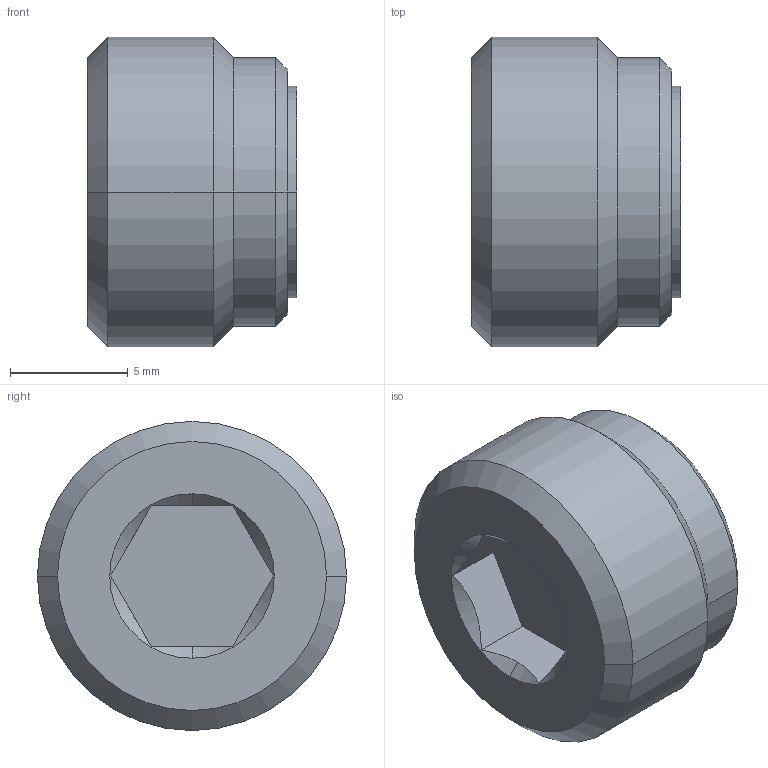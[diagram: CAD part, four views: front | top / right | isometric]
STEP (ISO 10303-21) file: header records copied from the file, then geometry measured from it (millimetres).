
FILE_DESCRIPTION((''),'2;1');
FILE_NAME('R412010124','2015-06-23T',('vol1hc'),(''),'PRO/ENGINEER BY PARAMETRIC TECHNOLOGY CORPORATION, 2012421','PRO/ENGINEER BY PARAMETRIC TECHNOLOGY CORPORATION, 2012421','');
FILE_SCHEMA(('CONFIG_CONTROL_DESIGN','SHAPE_APPEARANCE_LAYERS_GROUPS'));
Length unit declared in the file: millimetre
Products named in the file (1): R412010124
Bounding box: 8.9 x 13.16 x 13.16 mm (x, y, z)
Volume: 992.7 mm3; surface area: 615.9 mm2
Topology: 1 solids, 1 shells, 24 faces, 52 edges, 32 vertices
Faces by surface type: plane 10, cone 8, cylinder 6
Entity records: 768 total; most frequent: CARTESIAN_POINT 192, DIRECTION 110, ORIENTED_EDGE 104, EDGE_CURVE 52, AXIS2_PLACEMENT_3D 42, VERTEX_POINT 32, VECTOR 26, LINE 26
